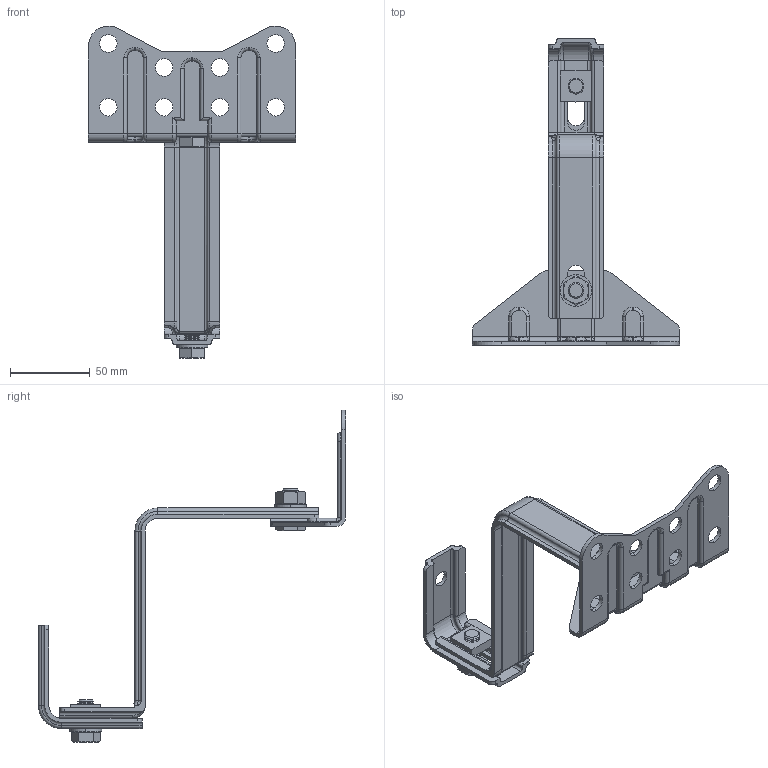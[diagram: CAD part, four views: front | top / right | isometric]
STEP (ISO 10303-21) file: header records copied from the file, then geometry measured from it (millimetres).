
FILE_DESCRIPTION (( 'STEP AP203' ), '1' );
FILE_NAME ('084.106.167.STEP', '2013-01-23T15:36:05', ( 'Alusic' ), ( 'Alusic' ), 'SwSTEP 2.0', 'SolidWorks 2011', '' );
FILE_SCHEMA (( 'CONFIG_CONTROL_DESIGN' ));
Length unit declared in the file: millimetre
Products named in the file (8): 084.106.167; 084.106.144-4; 084.106.144-3; Hex Nut Style 1 GradeAB_ISO_Hexagon Nut ISO - 4032 - M10 - W - N; Rosetta ISO 7089_Washer ISO 7089 - 10; 084.106.167A; Vite con testa esagonale ISO 4017_ISO 4017 - M10 x 20-S; 084.106.144-1
Assembly tree (9 placements, depth 2):
  084.106.167
    084.106.144-4
    Vite con testa esagonale ISO 4017_ISO 4017 - M10 x 20-S  x2
    084.106.167A
    Rosetta ISO 7089_Washer ISO 7089 - 10  x2
    Hex Nut Style 1 GradeAB_ISO_Hexagon Nut ISO - 4032 - M10 - W - N
    084.106.144-1
    084.106.144-3
Bounding box: 130 x 192.75 x 208.39 mm (x, y, z)
Volume: 78790.3 mm3; surface area: 66747.8 mm2
Topology: 9 solids, 9 shells, 611 faces, 1525 edges, 930 vertices
Faces by surface type: cylinder 253, plane 162, cone 130, torus 58, bspline 6, sphere 2
Entity records: 16483 total; most frequent: CARTESIAN_POINT 3339, DIRECTION 2781, ORIENTED_EDGE 2482, EDGE_CURVE 1241, AXIS2_PLACEMENT_3D 1084, VERTEX_POINT 758, VECTOR 613, LINE 613
